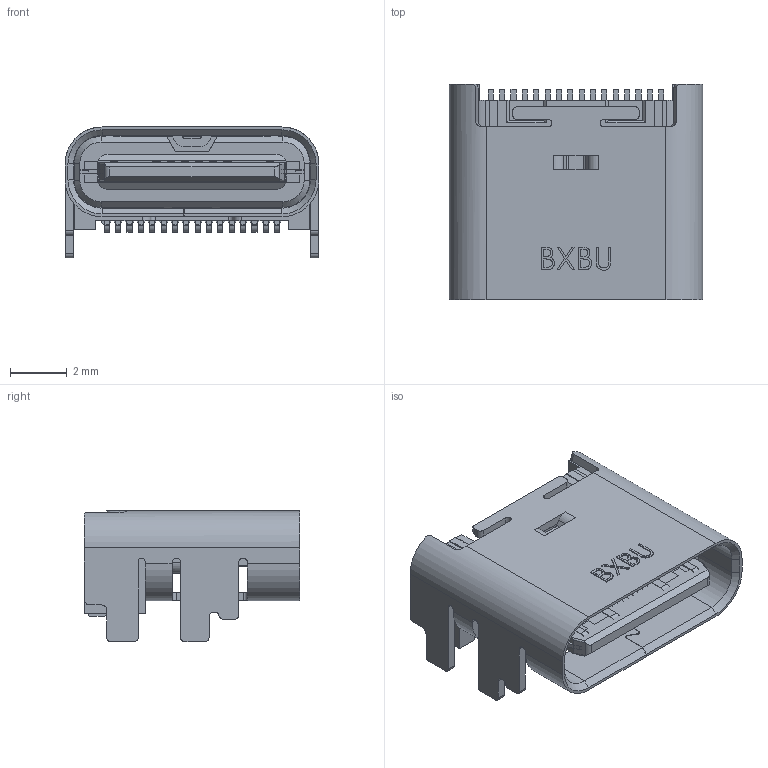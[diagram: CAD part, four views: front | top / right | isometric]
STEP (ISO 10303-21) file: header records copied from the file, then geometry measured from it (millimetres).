
FILE_DESCRIPTION (( 'STEP AP203' ), '1' );
FILE_NAME ('U5213-16PN0.6G7.6L.STEP', '2026-09-08T06:36:31', ( '' ), ( '' ), 'SwSTEP 2.0', 'SolidWorks 2024', '' );
FILE_SCHEMA (( 'CONFIG_CONTROL_DESIGN' ));
Length unit declared in the file: millimetre
Products named in the file (13): U5213-16PN0.6G7.6L; HUSOING FOR 7.6 mm____0.60mm-0.3_1_1; ________-0.6_1; shell-____-0.60_1_1; ____________________-0.6_1_1; ________-0.6_1_1-1; ______-0.6_1_1; ________-0.6_1_1; HOUSING_DOWN_1_WITH_SPRING-0.6_1_1; DOWN_CONTACT_01_ASM-0.6_1_1; HOUSING_TOP_1_WITHOUT_SPRING-0.6_1_1; TOP_MOLDING_01_08_ASM-0.6_1_1; DOWN-MOLDING-01-08-ASM-0.6-1-1
Assembly tree (12 placements, depth 4):
  U5213-16PN0.6G7.6L
    ______-0.6_1_1
      ____________________-0.6_1_1
    TOP_MOLDING_01_08_ASM-0.6_1_1
      ________-0.6_1_1
        ________-0.6_1
      HOUSING_TOP_1_WITHOUT_SPRING-0.6_1_1
    DOWN-MOLDING-01-08-ASM-0.6-1-1
      DOWN_CONTACT_01_ASM-0.6_1_1
        ________-0.6_1_1-1
      HOUSING_DOWN_1_WITH_SPRING-0.6_1_1
    HUSOING FOR 7.6 mm____0.60mm-0.3_1_1
    shell-____-0.60_1_1
Bounding box: 8.94 x 7.6 x 4.64 mm (x, y, z)
Volume: 148.2 mm3; surface area: 805.6 mm2
Topology: 21 solids, 21 shells, 1585 faces, 4597 edges, 3040 vertices
Faces by surface type: plane 1145, cylinder 399, bspline 25, cone 16
Entity records: 54788 total; most frequent: CARTESIAN_POINT 10928, ORIENTED_EDGE 9194, DIRECTION 8480, EDGE_CURVE 4597, VECTOR 3712, LINE 3712, VERTEX_POINT 3040, AXIS2_PLACEMENT_3D 2384
